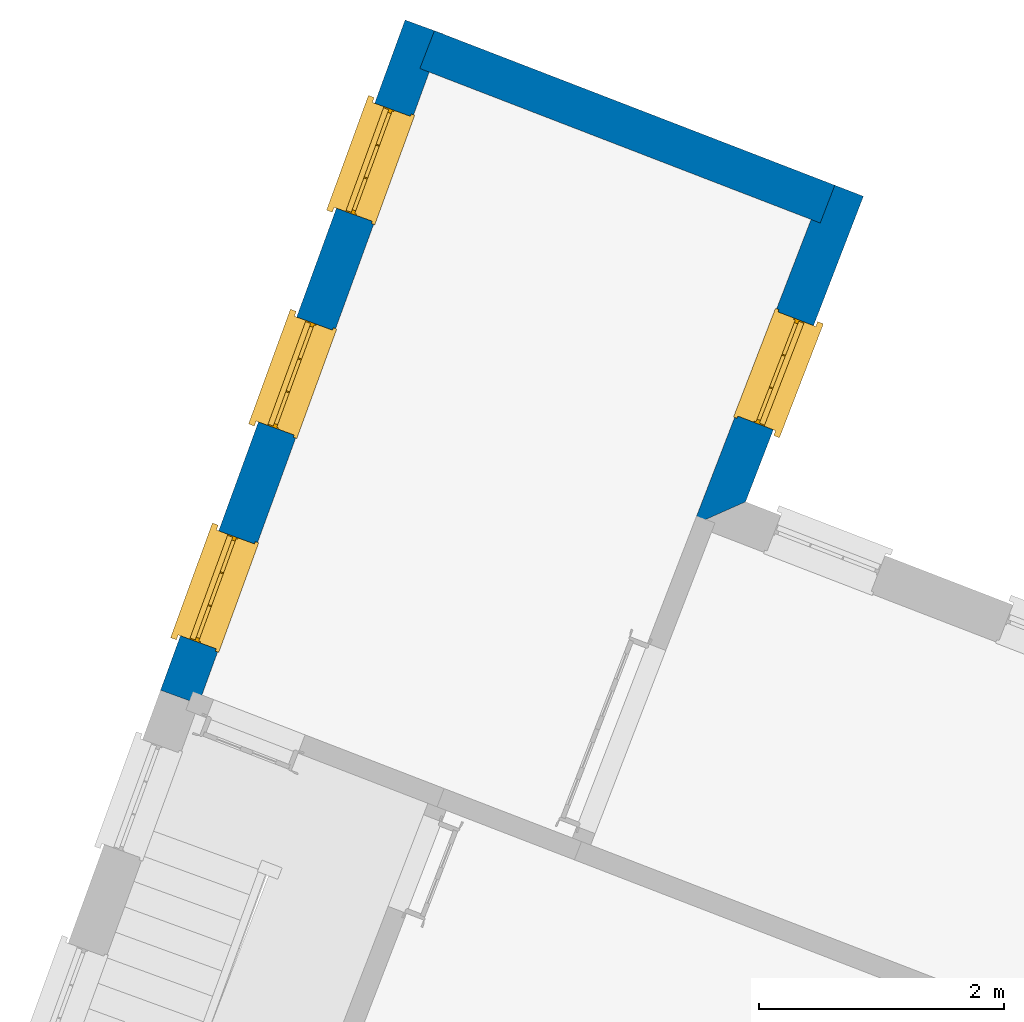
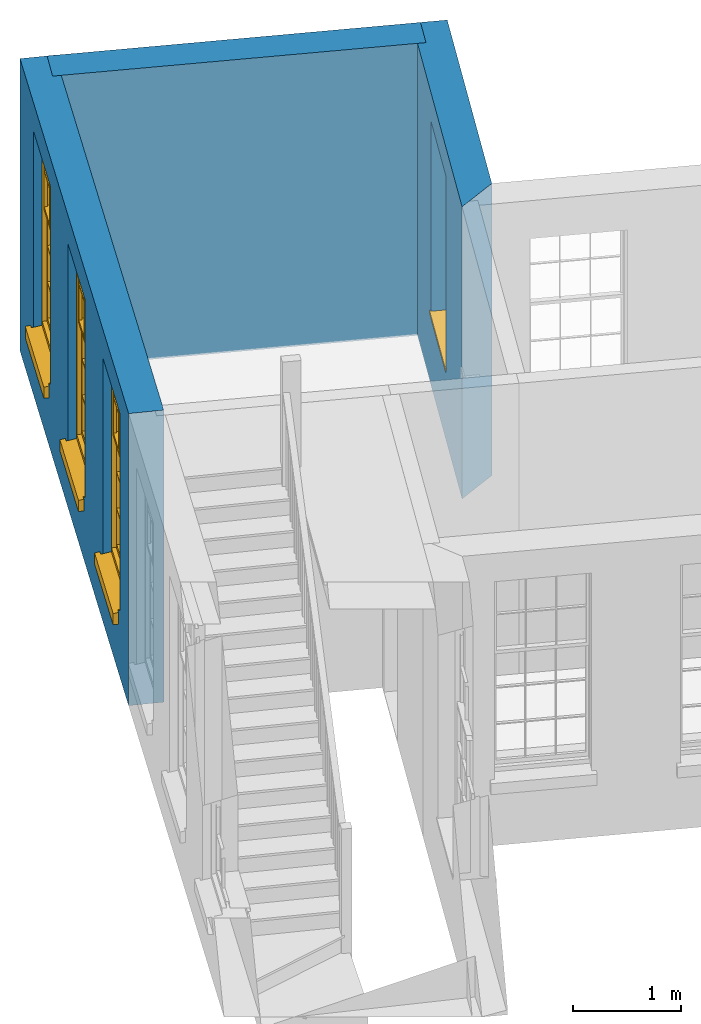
# One storey, part 4 of 4: 4 windows, 3 walls, 4 openings.
"""IFC4 building model written with IfcOpenShell, lengths in metres."""

from ifc_helpers import new_model, si_unit, frame, origin, origin_with_axes, place, context, subcontext, project, spatial, polyline, outline, extrude, faceted_brep, source, transform, mapped, material, layer, layer_set, layer_usage, type_object, type_shapes, element, fill, save


model = new_model("IFC4")

# Units and contexts
model_context = context("Model", 3, world=origin_with_axes())
body_context = subcontext(model_context, "Body", "Model", "MODEL_VIEW")
ifc_project = project(units=[si_unit("PLANEANGLEUNIT", "RADIAN"), si_unit("MASSUNIT", "GRAM", prefix="KILO"), si_unit("FORCEUNIT", "NEWTON", prefix="KILO"), si_unit("LENGTHUNIT", "METRE"), si_unit("AREAUNIT", "SQUARE_METRE"), si_unit("VOLUMEUNIT", "CUBIC_METRE")], contexts=[model_context, model_context])

# Sites, building, storey
site_1_placement = place(None, origin_with_axes())
site_1 = spatial("IfcSite", under=ifc_project, at=site_1_placement, Name="Tamar")
site_2_placement = place(site_1_placement, origin_with_axes())
site_2 = spatial("IfcSite", under=site_1, at=site_2_placement, Name="Site plot-11", CompositionType="ELEMENT")
building_placement = place(None, origin_with_axes())
building = spatial("IfcBuilding", under=site_2, at=building_placement, Name="Building plot-11", CompositionType="ELEMENT")
storey_placement = place(None, frame((0.0, 0.0, 30.1), z_axis=(0.0, 0.0, 1.0), x_axis=(1.0, 0.0, 0.0)))
storey = spatial("IfcBuildingStorey", under=building, at=storey_placement, Name="plot-11 1", CompositionType="ELEMENT", Elevation=30.1)

# Wall, openings, windows
ifc_material_1 = material(Name="Masonry")
ifc_layer_1 = layer(ifc_material_1, 0.33, ventilated=False)
ifc_layer_set_1 = layer_set([ifc_layer_1], Name="exterior_0.08_0.25")
ifc_layer_usage_1 = layer_usage(ifc_layer_set_1, "AXIS2", "POSITIVE", -0.25)
wall_type_1 = type_object("IfcWallType", Name="exterior_0.08_0.25", PredefinedType="SOLIDWALL", material=ifc_layer_set_1)
wall_1_placement = place(storey_placement, frame((242.194936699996, 320.258611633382, 0.0), z_axis=(0.0, 0.0, 1.0), x_axis=(-0.342734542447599, -0.939432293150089, 0.0)))
wall_1 = element("IfcWall", 1, at=wall_1_placement, inside=storey, type_object=wall_type_1, material=ifc_layer_usage_1, Name="exterior", context=body_context, shape_type="SweptSolid", body=[
    extrude(outline(polyline([(-0.249999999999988, 0.0800000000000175), (-0.249999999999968, -0.249999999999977), (5.56390203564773, -0.249999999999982), (5.56390203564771, 0.0800000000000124), (-0.249999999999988, 0.0800000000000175)])), origin_with_axes(), (0.0, 0.0, 1.0), 3.3),
])
opening_1_placement = place(wall_1_placement, frame((0.472317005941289, 0.0, 0.75)))
opening_1 = element("IfcOpeningElement", 2, at=opening_1_placement, cuts=wall_1, Name="My Opening", ObjectType="Opening", context=body_context, shape_type="SweptSolid", body=[
    extrude(outline(polyline([(0.0, -0.270000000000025), (0.909999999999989, -0.270000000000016), (0.91, 1.1), (1.01030295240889e-14, 1.09999999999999), (0.0, -0.270000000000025)])), origin_with_axes(), (0.0, 0.0, 1.0), 2.23),
])
opening_2_placement = place(wall_1_placement, frame((2.32695101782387, 0.0, 0.75)))
opening_2 = element("IfcOpeningElement", 3, at=opening_2_placement, cuts=wall_1, Name="My Opening", ObjectType="Opening", context=body_context, shape_type="SweptSolid", body=[
    extrude(outline(polyline([(0.0, -0.270000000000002), (0.909999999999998, -0.270000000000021), (0.91000000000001, 1.09999999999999), (1.06581410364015e-14, 1.10000000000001), (0.0, -0.270000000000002)])), origin_with_axes(), (0.0, 0.0, 1.0), 2.23),
])
opening_3_placement = place(wall_1_placement, frame((4.18158502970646, 0.0, 0.75)))
opening_3 = element("IfcOpeningElement", 4, at=opening_3_placement, cuts=wall_1, Name="My Opening", ObjectType="Opening", context=body_context, shape_type="SweptSolid", body=[
    extrude(outline(polyline([(0.0, -0.270000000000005), (0.909999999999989, -0.269999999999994), (0.909999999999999, 1.10000000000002), (9.76996261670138e-15, 1.10000000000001), (0.0, -0.270000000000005)])), origin_with_axes(), (0.0, 0.0, 1.0), 2.23),
])
window_type = type_object("IfcWindowType", Name="sash_big_taller", PartitioningType="DOUBLE_PANEL_HORIZONTAL", PredefinedType="NOTDEFINED")
shared_shape = source(origin(), body_context, "Body", "Brep", [
    faceted_brep([(0.033125, 0.145, 1.385209), (0.01, 0.145, 1.385209), (0.033125, 0.145, 1.786042), (0.876875, 0.145, 1.385209), (0.876875, 0.145, 1.786042), (0.9, 0.145, 1.385209), (0.876875, 0.145, 1.796042), (0.876875, 0.145, 2.196875), (0.9, 0.145, 2.22), (0.033125, 0.145, 2.196875), (0.033125, 0.145, 1.796042), (0.01, 0.145, 2.22), (0.876875, 0.115, 1.786042), (0.876875, 0.115, 1.385209), (0.9, 0.115, 1.347084), (0.033125, 0.115, 2.196875), (0.01, 0.115, 2.22), (0.033125, 0.115, 1.796042), (0.01, 0.115, 1.347084), (0.033125, 0.115, 1.385209), (0.033125, 0.115, 1.786042), (0.876875, 0.115, 2.196875), (0.876875, 0.115, 1.796042), (0.9, 0.115, 2.22), (0.033125, 0.145, 1.347084), (0.01, 0.145, 1.347084), (0.033125, 0.145, 0.94625), (0.876875, 0.145, 1.347084), (0.876875, 0.145, 0.94625), (0.9, 0.145, 1.347084), (0.876875, 0.145, 0.52625), (0.876875, 0.145, 0.125417), (0.9, 0.145, 0.077167), (0.033125, 0.145, 0.125417), (0.033125, 0.145, 0.52625), (0.01, 0.145, 0.077167), (-0.0425, 0.0, 0.01), (-0.0425, -0.05, 0.001667), (0.0, 0.0, 0.01), (0.9525, 0.0, 0.01), (0.91, 0.0, 0.01), (0.9525, -0.05, 0.001667), (-0.02, 0.33, 0.077167), (0.0, 0.33, 0.077167), (-0.02, 0.36, 0.077167), (0.0, 0.19, 0.077167), (0.01, 0.19, 0.077167), (0.91, 0.19, 0.077167), (0.91, 0.33, 0.077167), (0.9, 0.19, 0.077167), (0.93, 0.33, 0.077167), (0.93, 0.36, 0.077167), (0.01, 0.175, 1.385209), (0.9, 0.175, 1.385209), (0.876875, 0.175, 0.125417), (0.876875, 0.175, 0.52625), (0.9, 0.175, 0.077167), (0.876875, 0.175, 0.94625), (0.876875, 0.175, 1.347084), (0.033125, 0.175, 0.125417), (0.01, 0.175, 0.077167), (0.033125, 0.175, 0.52625), (0.033125, 0.175, 1.347084), (0.033125, 0.175, 0.94625), (-0.02, 0.33, 0.052167), (-0.02, 0.36, 0.052167), (0.93, 0.36, 0.052167), (0.93, 0.33, 0.052167), (0.91, 0.33, 0.052167), (0.0, 0.33, 0.052167), (0.91, 0.1, 0.026667), (0.0, 0.1, 0.026667), (-0.0425, -0.05, -0.123333), (0.9525, -0.05, -0.123333), (-0.0425, 0.0, -0.123333), (0.9525, 0.0, -0.123333), (0.01, 0.19, 2.22), (0.9, 0.19, 2.22), (0.0, 0.19, 2.23), (0.91, 0.19, 2.23), (0.01, 0.1, 0.077167), (0.9, 0.1, 0.077167), (0.592292, 0.145, 0.125417), (0.592292, 0.175, 0.125417), (0.317708, 0.175, 0.125417), (0.317708, 0.145, 0.125417), (0.592292, 0.145, 0.53625), (0.317708, 0.145, 0.53625), (0.317708, 0.145, 0.52625), (0.592292, 0.145, 0.52625), (0.592292, 0.175, 0.53625), (0.317708, 0.175, 0.53625), (0.592292, 0.115, 1.796042), (0.592292, 0.145, 1.796042), (0.317708, 0.145, 1.796042), (0.317708, 0.115, 1.796042), (0.317708, 0.115, 1.786042), (0.592292, 0.115, 1.786042), (0.317708, 0.145, 1.786042), (0.592292, 0.145, 1.786042), (0.602292, 0.115, 1.786042), (0.592292, 0.115, 1.385209), (0.602292, 0.115, 1.385209), (0.602292, 0.145, 1.385209), (0.592292, 0.145, 1.385209), (0.602292, 0.145, 1.786042), (0.876875, 0.145, 0.53625), (0.876875, 0.175, 0.53625), (0.602292, 0.175, 0.53625), (0.602292, 0.145, 0.53625), (0.317708, 0.175, 0.52625), (0.307708, 0.175, 0.125417), (0.307708, 0.175, 0.52625), (0.602292, 0.175, 0.52625), (0.602292, 0.175, 0.125417), (0.592292, 0.175, 0.52625), (0.307708, 0.175, 0.53625), (0.033125, 0.175, 0.53625), (0.317708, 0.175, 1.347084), (0.317708, 0.175, 0.94625), (0.307708, 0.175, 0.94625), (0.307708, 0.175, 1.347084), (0.602292, 0.175, 1.347084), (0.602292, 0.175, 0.94625), (0.592292, 0.175, 0.94625), (0.592292, 0.175, 1.347084), (0.307708, 0.145, 0.52625), (0.307708, 0.145, 0.125417), (0.307708, 0.145, 0.53625), (0.033125, 0.145, 0.53625), (0.307708, 0.145, 1.347084), (0.307708, 0.145, 0.94625), (0.592292, 0.145, 1.347084), (0.592292, 0.145, 0.94625), (0.317708, 0.145, 0.94625), (0.317708, 0.145, 1.347084), (0.602292, 0.145, 0.94625), (0.602292, 0.145, 1.347084), (0.602292, 0.145, 0.52625), (0.602292, 0.145, 0.125417), (0.307708, 0.115, 1.796042), (0.307708, 0.115, 1.786042), (0.307708, 0.115, 1.385209), (0.317708, 0.115, 1.385209), (0.317708, 0.115, 2.196875), (0.307708, 0.115, 2.196875), (0.602292, 0.115, 2.196875), (0.592292, 0.115, 2.196875), (0.602292, 0.115, 1.796042), (0.602292, 0.145, 1.796042), (0.307708, 0.145, 1.796042), (0.307708, 0.145, 2.196875), (0.317708, 0.145, 2.196875), (0.592292, 0.145, 2.196875), (0.602292, 0.145, 2.196875), (0.307708, 0.145, 1.786042), (0.317708, 0.145, 1.385209), (0.307708, 0.145, 1.385209), (0.876875, 0.175, 0.93625), (0.033125, 0.175, 0.93625), (0.033125, 0.145, 0.93625), (0.876875, 0.145, 0.93625), (0.91, 0.1, 2.23), (0.9, 0.1, 2.22), (0.01, 0.1, 2.22), (0.0, 0.1, 2.23), (0.91, 0.0, 0.0), (0.0, 0.0, 0.0), (0.91, 0.33, 0.0), (0.0, 0.33, 0.0), (0.317708, 0.145, 0.93625), (0.592292, 0.145, 0.93625), (0.317708, 0.175, 0.93625), (0.307708, 0.175, 0.93625), (0.602292, 0.175, 0.93625), (0.592292, 0.175, 0.93625), (0.307708, 0.145, 0.93625), (0.602292, 0.145, 0.93625)], [[[0, 1, 2]], [[3, 4, 5]], [[6, 7, 8]], [[9, 10, 11]], [[12, 13, 14]], [[15, 16, 17]], [[18, 19, 20]], [[21, 22, 23]], [[24, 25, 26]], [[27, 28, 29]], [[30, 31, 32]], [[33, 34, 35]], [[14, 27, 29]], [[25, 24, 18]], [[36, 37, 38]], [[39, 40, 41]], [[42, 43, 44]], [[45, 46, 43]], [[47, 48, 49]], [[50, 51, 48]], [[1, 0, 52]], [[5, 53, 3]], [[54, 55, 56]], [[57, 58, 53]], [[59, 60, 61]], [[62, 63, 52]], [[48, 43, 46, 49]], [[51, 44, 43, 48]], [[64, 42, 44, 65]], [[65, 44, 51, 66]], [[66, 51, 50, 67]], [[65, 66, 68, 69]], [[60, 56, 49, 46]], [[70, 71, 38, 40]], [[37, 41, 40, 38]], [[37, 72, 73, 41]], [[74, 75, 73, 72]], [[8, 11, 76, 77]], [[76, 78, 79, 77]], [[32, 35, 80, 81]], [[81, 80, 71, 70]], [[82, 83, 84, 85]], [[86, 87, 88, 89]], [[86, 90, 91, 87]], [[92, 93, 94, 95]], [[92, 95, 96, 97]], [[96, 98, 99, 97]], [[100, 97, 101, 102]], [[103, 104, 99, 105]], [[97, 99, 104, 101]], [[102, 103, 105, 100]], [[106, 107, 108, 109]], [[110, 84, 111, 112]], [[113, 114, 83, 115]], [[116, 112, 61, 117]], [[90, 115, 110, 91]], [[118, 119, 120, 121]], [[122, 123, 124, 125]], [[113, 108, 107, 55]], [[126, 112, 111, 127]], [[34, 61, 112, 126]], [[89, 115, 83, 82]], [[88, 110, 115, 89]], [[85, 84, 110, 88]], [[128, 116, 117, 129]], [[130, 121, 120, 131]], [[132, 125, 124, 133]], [[134, 119, 118, 135]], [[136, 123, 122, 137]], [[138, 113, 55, 30]], [[139, 114, 113, 138]], [[138, 30, 106, 109]], [[88, 126, 127, 85]], [[138, 89, 82, 139]], [[137, 132, 133, 136]], [[128, 129, 34, 126]], [[135, 130, 131, 134]], [[140, 17, 20, 141]], [[96, 141, 142, 143]], [[144, 145, 140, 95]], [[146, 147, 92, 148]], [[100, 12, 22, 148]], [[149, 6, 4, 105]], [[94, 150, 151, 152]], [[149, 93, 153, 154]], [[99, 98, 94, 93]], [[155, 2, 10, 150]], [[156, 157, 155, 98]], [[141, 155, 157, 142]], [[20, 2, 155, 141]], [[143, 156, 98, 96]], [[140, 150, 10, 17]], [[145, 151, 150, 140]], [[147, 153, 93, 92]], [[95, 94, 152, 144]], [[22, 6, 149, 148]], [[148, 149, 154, 146]], [[100, 105, 4, 12]], [[109, 86, 89, 138]], [[108, 113, 115, 90]], [[91, 110, 112, 116]], [[87, 128, 126, 88]], [[97, 100, 148, 92]], [[141, 96, 95, 140]], [[98, 155, 150, 94]], [[105, 99, 93, 149]], [[143, 101, 104, 156]], [[135, 118, 125, 132]], [[144, 152, 153, 147]], [[127, 111, 59, 33]], [[15, 9, 151, 145]], [[146, 154, 7, 21]], [[31, 54, 114, 139]], [[36, 74, 72, 37]], [[39, 41, 73, 75]], [[18, 14, 101, 143]], [[23, 16, 144, 147]], [[83, 56, 60, 84]], [[52, 53, 125, 118]], [[53, 52, 156, 104]], [[11, 8, 153, 152]], [[14, 18, 135, 132]], [[2, 1, 11, 10]], [[8, 5, 4, 6]], [[57, 53, 56, 158]], [[60, 52, 63, 159]], [[26, 25, 35, 160]], [[32, 29, 28, 161]], [[14, 23, 22, 12]], [[18, 20, 17, 16]], [[19, 0, 2, 20]], [[17, 10, 9, 15]], [[12, 4, 3, 13]], [[21, 7, 6, 22]], [[27, 58, 57, 28]], [[30, 55, 54, 31]], [[33, 59, 61, 34]], [[26, 63, 62, 24]], [[5, 8, 77, 53]], [[76, 11, 1, 52]], [[46, 45, 78, 76]], [[49, 77, 79, 47]], [[70, 162, 163, 81]], [[71, 80, 164, 165]], [[19, 142, 157, 0]], [[102, 13, 3, 103]], [[121, 130, 24, 62]], [[29, 32, 81, 14]], [[80, 35, 25, 18]], [[60, 46, 76, 52]], [[77, 49, 56, 53]], [[23, 14, 81, 163]], [[16, 164, 80, 18]], [[35, 85, 127]], [[127, 33, 35]], [[139, 82, 32]], [[32, 31, 139]], [[32, 82, 85, 35]], [[102, 101, 14]], [[14, 13, 102]], [[18, 143, 142]], [[142, 19, 18]], [[146, 21, 23]], [[23, 147, 146]], [[16, 15, 145]], [[145, 144, 16]], [[11, 152, 151]], [[151, 9, 11]], [[154, 153, 8]], [[8, 7, 154]], [[23, 163, 164, 16]], [[162, 165, 164, 163]], [[52, 118, 121]], [[121, 62, 52]], [[125, 53, 122]], [[58, 122, 53]], [[27, 137, 122, 58]], [[56, 83, 114]], [[114, 54, 56]], [[111, 84, 60]], [[60, 59, 111]], [[137, 27, 14]], [[14, 132, 137]], [[130, 135, 18]], [[18, 24, 130]], [[157, 156, 52]], [[52, 0, 157]], [[103, 3, 53]], [[53, 104, 103]], [[79, 78, 165, 162]], [[78, 45, 71, 165]], [[162, 70, 47, 79]], [[166, 75, 74, 167]], [[68, 66, 67]], [[48, 68, 67, 50]], [[69, 64, 65]], [[42, 64, 69, 43]], [[69, 68, 168, 169]], [[70, 68, 48, 47]], [[166, 168, 68, 70]], [[43, 69, 71, 45]], [[69, 169, 167, 71]], [[168, 166, 167, 169]], [[38, 167, 74, 36]], [[71, 167, 38]], [[39, 75, 166, 40]], [[40, 166, 70]], [[133, 134, 170, 171]], [[133, 124, 119, 134]], [[28, 57, 123, 136]], [[172, 91, 116, 173]], [[174, 108, 90, 175]], [[120, 173, 159, 63]], [[124, 175, 172, 119]], [[174, 123, 57, 158]], [[176, 173, 116, 128]], [[160, 159, 173, 176]], [[171, 175, 90, 86]], [[170, 172, 175, 171]], [[87, 91, 172, 170]], [[131, 120, 63, 26]], [[177, 174, 158, 161]], [[109, 108, 174, 177]], [[177, 161, 28, 136]], [[170, 176, 128, 87]], [[177, 171, 86, 109]], [[131, 26, 160, 176]], [[136, 133, 171, 177]], [[123, 174, 175, 124]], [[119, 172, 173, 120]], [[134, 131, 176, 170]], [[129, 117, 159, 160]], [[161, 158, 107, 106]], [[35, 34, 129]], [[35, 129, 160]], [[32, 106, 30]], [[32, 161, 106]], [[56, 55, 107]], [[56, 107, 158]], [[60, 117, 61]], [[60, 159, 117]]]),
])
type_shapes(window_type, [shared_shape])
window_1_placement = place(storey_placement, frame((241.779410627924, 319.907440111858, 0.75), z_axis=(0.0, 0.0, 1.0), x_axis=(-0.311888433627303, -0.854883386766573, 0.0)))
window_1 = element("IfcWindow", 5, at=window_1_placement, inside=storey, type_object=window_type, Name="living outside window", OverallHeight=2.23, OverallWidth=0.91, context=body_context, shape_type="MappedRepresentation", body=[
    mapped(shared_shape, transform((0.0, 0.0, 0.0), scale=1.0)),
])
fill(opening_1, window_1)
window_2_placement = place(storey_placement, frame((241.143763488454, 318.165137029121, 0.75), z_axis=(0.0, 0.0, 1.0), x_axis=(-0.311888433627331, -0.854883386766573, 0.0)))
window_2 = element("IfcWindow", 6, at=window_2_placement, inside=storey, type_object=window_type, Name="living outside window", OverallHeight=2.23, OverallWidth=0.91, context=body_context, shape_type="MappedRepresentation", body=[
    mapped(shared_shape, transform((0.0, 0.0, 0.0), scale=1.0)),
])
fill(opening_2, window_2)
window_3_placement = place(storey_placement, frame((240.508116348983, 316.422833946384, 0.75), z_axis=(0.0, 0.0, 1.0), x_axis=(-0.311888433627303, -0.854883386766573, 0.0)))
window_3 = element("IfcWindow", 7, at=window_3_placement, inside=storey, type_object=window_type, Name="living outside window", OverallHeight=2.23, OverallWidth=0.91, context=body_context, shape_type="MappedRepresentation", body=[
    mapped(shared_shape, transform((0.0, 0.0, 0.0), scale=1.0)),
])
fill(opening_3, window_3)

# Wall, opening, window
wall_2_placement = place(storey_placement, frame((244.496539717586, 316.509129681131, 0.0), z_axis=(0.0, 0.0, 1.0), x_axis=(0.360068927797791, 0.932925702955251, 0.0)))
wall_2 = element("IfcWall", 8, at=wall_2_placement, inside=storey, type_object=wall_type_1, material=ifc_layer_usage_1, Name="exterior", context=body_context, shape_type="SweptSolid", body=[
    extrude(outline(polyline([(-0.0799999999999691, 0.080000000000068), (0.249999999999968, -0.250000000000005), (2.91925235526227, -0.249999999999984), (2.91925235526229, 0.0800000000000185), (-0.0799999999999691, 0.080000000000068)])), origin_with_axes(), (0.0, 0.0, 1.0), 3.3),
])
opening_4_placement = place(wall_2_placement, frame((0.879626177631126, 0.0, 0.75)))
opening_4 = element("IfcOpeningElement", 9, at=opening_4_placement, cuts=wall_2, Name="My Opening", ObjectType="Opening", context=body_context, shape_type="SweptSolid", body=[
    extrude(outline(polyline([(0.0, -0.269999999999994), (0.909999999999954, -0.269999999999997), (0.909999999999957, 1.09999999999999), (2.88657986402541e-15, 1.1), (0.0, -0.269999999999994)])), origin_with_axes(), (0.0, 0.0, 1.0), 2.23),
])
window_4_placement = place(storey_placement, frame((245.065155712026, 317.23253694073, 0.75), z_axis=(0.0, 0.0, 1.0), x_axis=(0.327662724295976, 0.848962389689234, 0.0)))
window_4 = element("IfcWindow", 10, at=window_4_placement, inside=storey, type_object=window_type, Name="living outside window", OverallHeight=2.23, OverallWidth=0.91, context=body_context, shape_type="MappedRepresentation", body=[
    mapped(shared_shape, transform((0.0, 0.0, 0.0), scale=1.0)),
])
fill(opening_4, window_4)

# Wall
ifc_material_2 = material(Name="Masonry")
ifc_layer_2 = layer(ifc_material_2, 0.33, ventilated=False)
ifc_layer_set_2 = layer_set([ifc_layer_2], Name="party_0.08_0.25")
ifc_layer_usage_2 = layer_usage(ifc_layer_set_2, "AXIS2", "POSITIVE", -0.25)
wall_type_2 = type_object("IfcWallType", Name="party_0.08_0.25", PredefinedType="SOLIDWALL", material=ifc_layer_set_2)
wall_3_placement = place(storey_placement, frame((245.457654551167, 318.999343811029, 0.0), z_axis=(0.0, 0.0, 1.0), x_axis=(-0.93292570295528, 0.360068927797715, 0.0)))
element("IfcWall", 11, at=wall_3_placement, inside=storey, type_object=wall_type_2, material=ifc_layer_usage_2, Name="party", context=body_context, shape_type="SweptSolid", body=[
    extrude(outline(polyline([(-7.24263731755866e-15, 0.0800000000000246), (1.62800753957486e-14, -0.250000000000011), (3.49729655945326, -0.25000000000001), (3.49729655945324, 0.0800000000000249), (-7.24263731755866e-15, 0.0800000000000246)])), origin_with_axes(), (0.0, 0.0, 1.0), 3.3),
])

save(model, "model.ifc")
